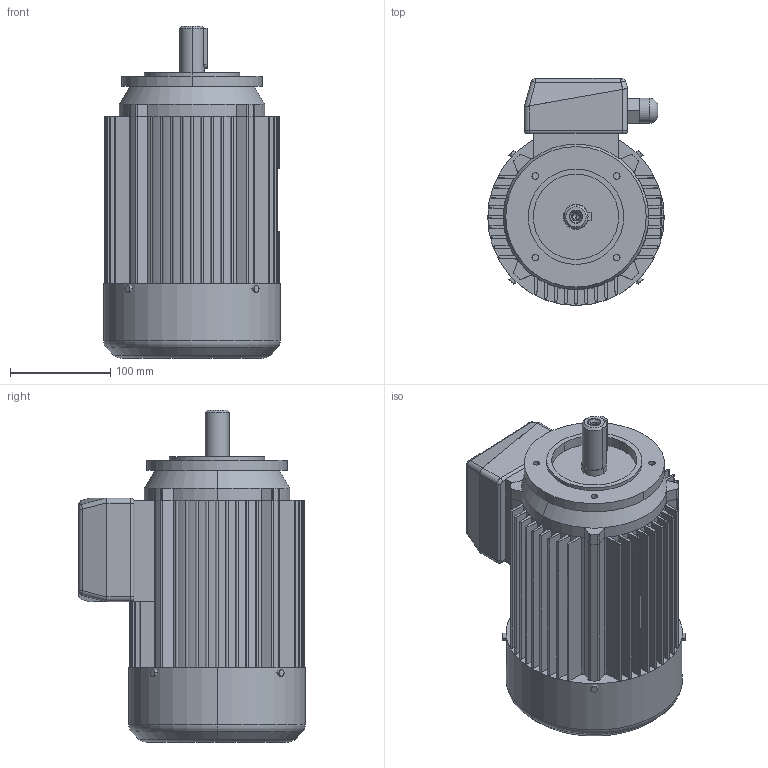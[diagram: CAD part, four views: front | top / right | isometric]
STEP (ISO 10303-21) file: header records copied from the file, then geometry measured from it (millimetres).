
FILE_DESCRIPTION (( 'STEP AP203' ), '1' );
FILE_NAME ('2SIEK90S2,4,6-B14-C2.STEP', '2013-01-07T12:49:36', ( 'INDUKTA' ), ( 'CANTONI MOTOR' ), 'SwSTEP 2.0', 'SolidWorks 2003064', '' );
FILE_SCHEMA (( 'CONFIG_CONTROL_DESIGN' ));
Length unit declared in the file: millimetre
Products named in the file (1): 2SIEK90S2,4,6-B14-C2
Bounding box: 176 x 226 x 331 mm (x, y, z)
Volume: 6134958.6 mm3; surface area: 484160.2 mm2
Topology: 11 solids, 11 shells, 376 faces, 983 edges, 632 vertices
Faces by surface type: cylinder 178, plane 170, cone 14, torus 10, sphere 4
Entity records: 11658 total; most frequent: DIRECTION 2114, CARTESIAN_POINT 2047, ORIENTED_EDGE 1954, EDGE_CURVE 977, AXIS2_PLACEMENT_3D 771, VERTEX_POINT 632, LINE 572, VECTOR 572
